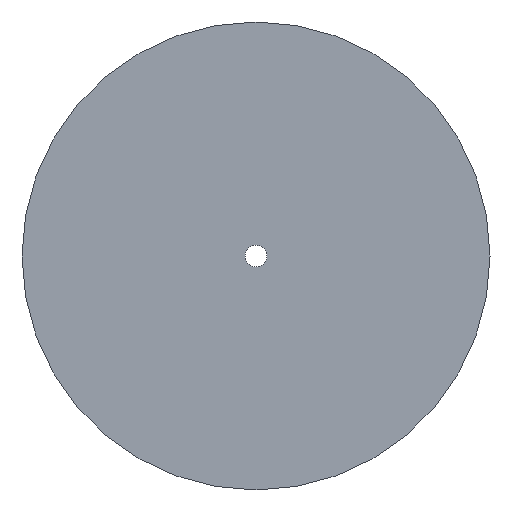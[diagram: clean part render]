
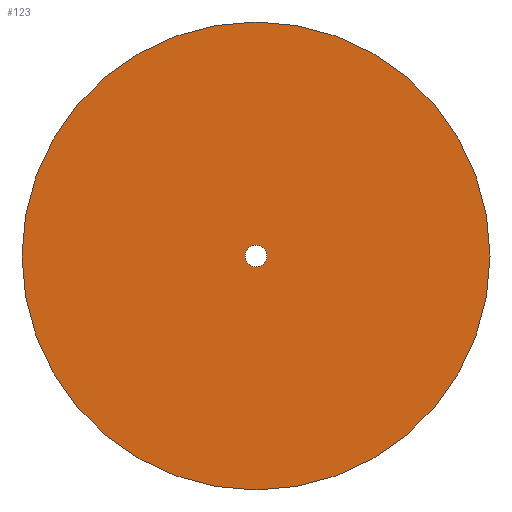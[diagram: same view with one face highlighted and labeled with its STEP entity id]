
A CAD part, top view. The second image highlights one B-rep face of the part: STEP entity #123.
In plain terms, the highlighted planar face has unit normal (0, 0, 1).
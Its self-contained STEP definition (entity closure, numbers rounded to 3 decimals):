
#62=CARTESIAN_POINT('Vertex',(-2.852,1.558,0.)) ;
#76=CARTESIAN_POINT('Vertex',(2.852,-1.558,0.)) ;
#79=CARTESIAN_POINT('Axis2P3D Location',(0.,0.,0.)) ;
#91=CARTESIAN_POINT('Axis2P3D Location',(0.,0.,0.)) ;
#96=CARTESIAN_POINT('Axis2P3D Location',(0.,0.,0.)) ;
#100=CARTESIAN_POINT('Vertex',(70.,0.,0.)) ;
#102=CARTESIAN_POINT('Vertex',(-70.,0.,0.)) ;
#105=CARTESIAN_POINT('Axis2P3D Location',(0.,0.,0.)) ;
#114=CARTESIAN_POINT('Axis2P3D Location',(0.,0.,0.)) ;
#80=DIRECTION('Axis2P3D Direction',(0.,-0.,-1.)) ;
#92=DIRECTION('Axis2P3D Direction',(0.,0.,1.)) ;
#93=DIRECTION('Axis2P3D XDirection',(1.,0.,0.)) ;
#97=DIRECTION('Axis2P3D Direction',(0.,0.,1.)) ;
#106=DIRECTION('Axis2P3D Direction',(0.,0.,1.)) ;
#115=DIRECTION('Axis2P3D Direction',(0.,0.,1.)) ;
#81=AXIS2_PLACEMENT_3D('Circle Axis2P3D',#79,#80,$) ;
#94=AXIS2_PLACEMENT_3D('Plane Axis2P3D',#91,#92,#93) ;
#98=AXIS2_PLACEMENT_3D('Circle Axis2P3D',#96,#97,$) ;
#107=AXIS2_PLACEMENT_3D('Circle Axis2P3D',#105,#106,$) ;
#116=AXIS2_PLACEMENT_3D('Circle Axis2P3D',#114,#115,$) ;
#111=ORIENTED_EDGE('',*,*,#104,.F.) ;
#112=ORIENTED_EDGE('',*,*,#109,.F.) ;
#120=ORIENTED_EDGE('',*,*,#118,.F.) ;
#121=ORIENTED_EDGE('',*,*,#83,.F.) ;
#122=FACE_BOUND('',#119,.T.) ;
#123=ADVANCED_FACE('PartBody',(#113,#122),#95,.T.) ;
#82=CIRCLE('generated circle',#81,3.25) ;
#99=CIRCLE('generated circle',#98,70.) ;
#108=CIRCLE('generated circle',#107,70.) ;
#117=CIRCLE('generated circle',#116,3.25) ;
#83=EDGE_CURVE('',#77,#63,#82,.F.) ;
#104=EDGE_CURVE('',#101,#103,#99,.F.) ;
#109=EDGE_CURVE('',#103,#101,#108,.F.) ;
#118=EDGE_CURVE('',#63,#77,#117,.T.) ;
#110=EDGE_LOOP('',(#111,#112)) ;
#119=EDGE_LOOP('',(#120,#121)) ;
#113=FACE_OUTER_BOUND('',#110,.T.) ;
#95=PLANE('',#94) ;
#63=VERTEX_POINT('',#62) ;
#77=VERTEX_POINT('',#76) ;
#101=VERTEX_POINT('',#100) ;
#103=VERTEX_POINT('',#102) ;
